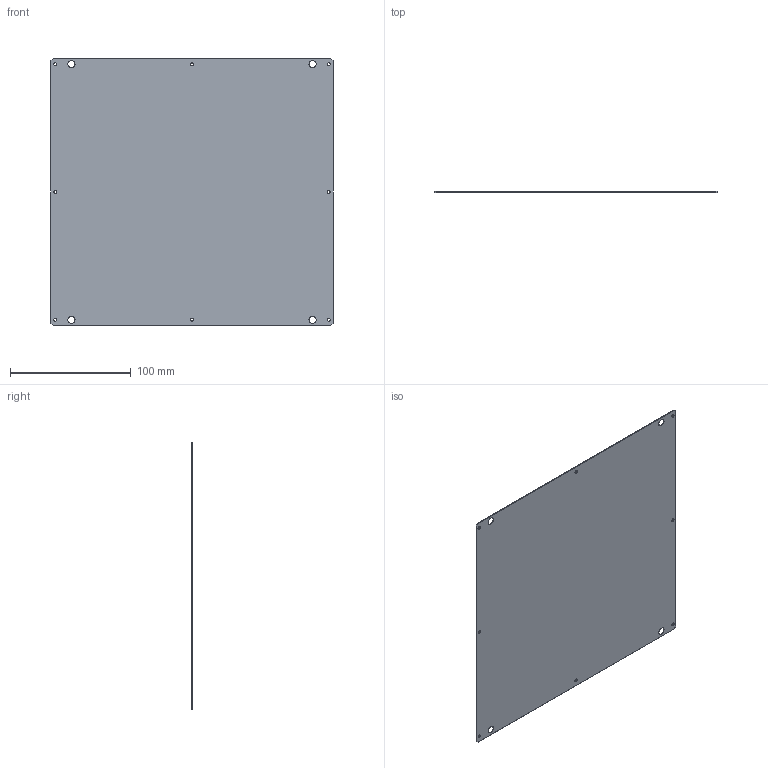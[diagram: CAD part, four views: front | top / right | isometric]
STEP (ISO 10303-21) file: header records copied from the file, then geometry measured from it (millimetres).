
FILE_DESCRIPTION (( 'STEP AP203' ), '1' );
FILE_NAME ('UA15362.STEP', '2020-06-09T00:06:29', ( 'CCS' ), ( 'シーシーエス株式会社' ), 'SwSTEP 2.0', 'SolidWorks 2017', '' );
FILE_SCHEMA (( 'CONFIG_CONTROL_DESIGN' ));
Length unit declared in the file: millimetre
Products named in the file (2): UA15362; KA15362-A001
Assembly tree (1 placements, depth 2):
  UA15362
    KA15362-A001
Bounding box: 234 x 0.5 x 222 mm (x, y, z)
Volume: 25893.8 mm3; surface area: 104098 mm2
Topology: 1 solids, 1 shells, 34 faces, 96 edges, 64 vertices
Faces by surface type: cylinder 24, plane 10
Entity records: 1372 total; most frequent: DIRECTION 220, CARTESIAN_POINT 198, ORIENTED_EDGE 192, EDGE_CURVE 96, AXIS2_PLACEMENT_3D 86, VERTEX_POINT 64, EDGE_LOOP 58, VECTOR 48
